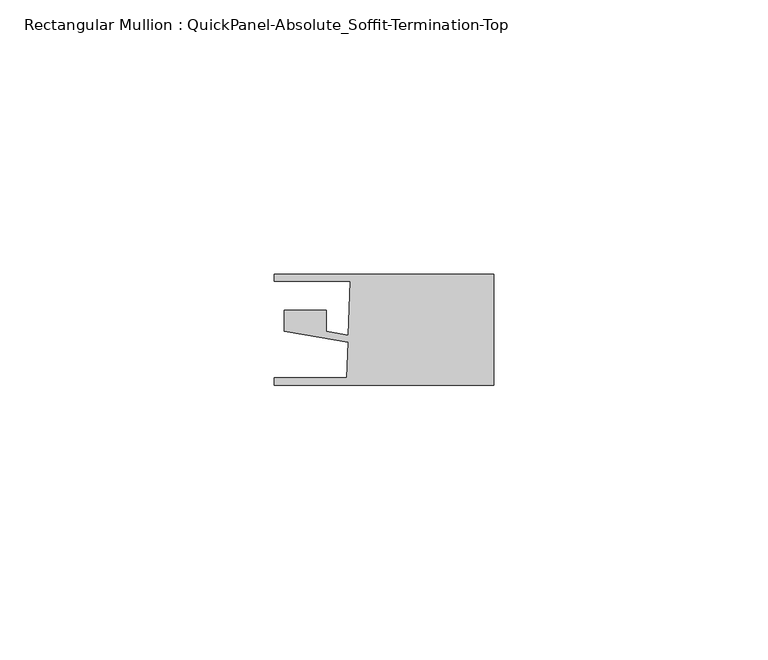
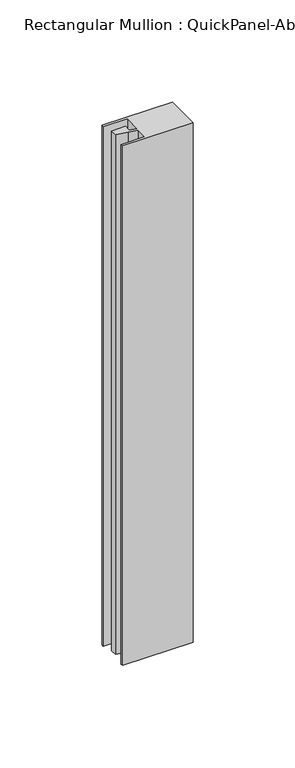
"""IFC4 building model written with IfcOpenShell, lengths in millimetres: member geometry, Rectangular Mullion : QuickPanel-Absolute_Soffit-Termination-Top."""

from ifc_helpers import new_model, si_unit, frame, origin, place, context, project, spatial, polyline, outline, extrude, source, transform, mapped, element, save


def rectangular_mullion_quickpanel_absolute_soffit_termination_9e7e0100(model_context):
    return source(origin(), model_context, "Body", "SweptSolid", [
        extrude(outline(polyline([(-40.0272216, -8.095605), (-40.0272216, -6.6935423), (-26.7863089, -6.6935423), (-26.5595237, -0.1992641), (-31.8098046, 0.7008023), (-38.2451373, 1.8040245), (-38.2451373, 5.6493034), (-30.5003642, 5.6493034), (-30.5003642, 1.7648465), (-26.5147952, 1.0815922), (-26.1708682, 10.9303752), (-40.0272216, 10.9303752), (-40.0272216, 12.1803727), (0.0, 12.1803727), (0.0, -8.095605), (-40.0272216, -8.095605)])), frame((0.0, 0.0, -311.0914708), z_axis=(0.0, 0.0, 1.0), x_axis=(1.0, 0.0, 0.0)), (0.0, 0.0, 1.0), 311.0914708),
    ])


if __name__ == "__main__":
    model = new_model("IFC4")
    model_context = context("Model", 3, world=origin())
    ifc_project = project(units=[si_unit("LENGTHUNIT", "METRE", prefix="MILLI")], contexts=[model_context])
    site = spatial("IfcSite", under=ifc_project)
    building = spatial("IfcBuilding", under=site)
    placement = place(None, origin())
    rectangular_mullion_quickpanel_absolute_soffit_termination_shape = rectangular_mullion_quickpanel_absolute_soffit_termination_9e7e0100(model_context)
    element("IfcMember", 1, ObjectType="Rectangular Mullion : QuickPanel-Absolute_Soffit-Termination-Top", at=placement, inside=building, context=model_context, shape_type="MappedRepresentation", body=[
        mapped(rectangular_mullion_quickpanel_absolute_soffit_termination_shape, transform((0.0, 0.0, 0.0), x_axis=(1.0, 0.0, 0.0), y_axis=(0.0, 1.0, 0.0), z_axis=(0.0, 0.0, 1.0))),
    ])
    save(model, "model.ifc")
